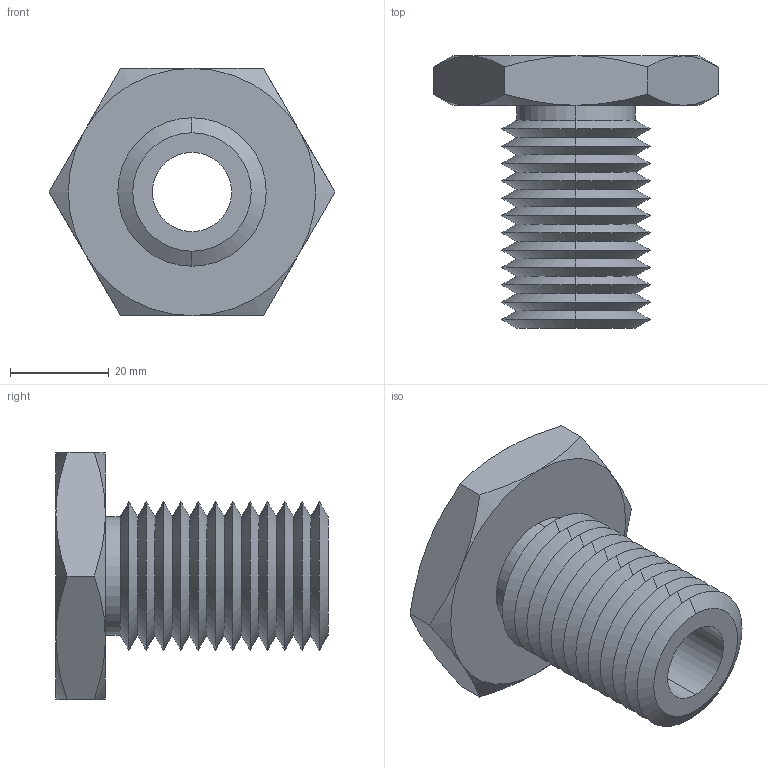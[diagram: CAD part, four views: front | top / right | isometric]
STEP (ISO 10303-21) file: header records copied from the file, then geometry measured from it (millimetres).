
FILE_DESCRIPTION (( 'STEP AP203' ), '1' );
FILE_NAME ('63302.W0030_M16x2.step', '2013-12-08T11:06:16', ( 'User' ), ( '' ), 'SwSTEP 2.0', 'SolidWorks 2009', '' );
FILE_SCHEMA (( 'CONFIG_CONTROL_DESIGN' ));
Length unit declared in the file: millimetre
Products named in the file (1): 63302.W0030_M16x2
Bounding box: 57.73 x 55 x 50 mm (x, y, z)
Volume: 35654.9 mm3; surface area: 15510.5 mm2
Topology: 1 solids, 1 shells, 75 faces, 154 edges, 82 vertices
Faces by surface type: cone 62, plane 9, cylinder 4
Entity records: 2139 total; most frequent: CARTESIAN_POINT 496, DIRECTION 352, ORIENTED_EDGE 308, EDGE_CURVE 154, AXIS2_PLACEMENT_3D 146, VERTEX_POINT 82, EDGE_LOOP 78, ADVANCED_FACE 75
